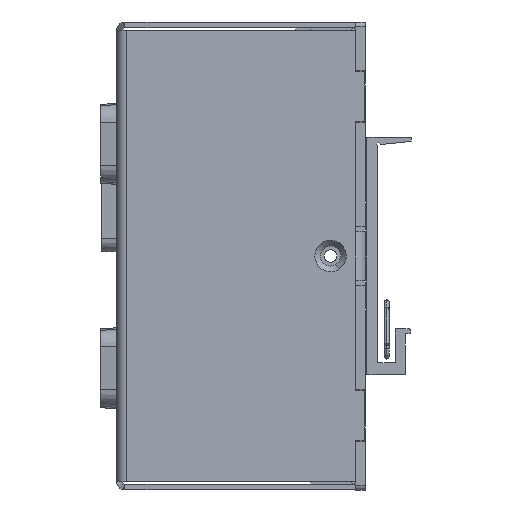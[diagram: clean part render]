
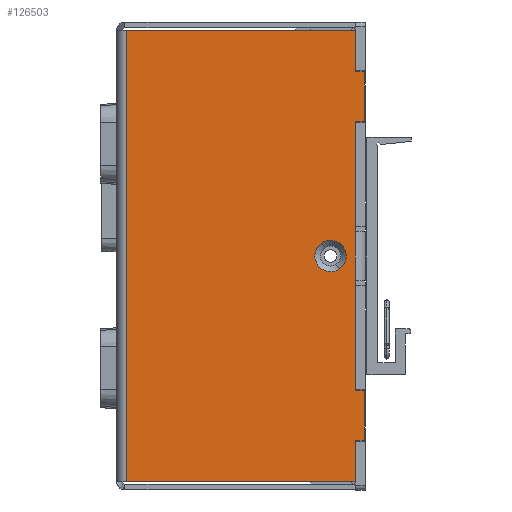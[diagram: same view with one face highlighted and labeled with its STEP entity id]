
A CAD part, left-side view. The second image highlights one B-rep face of the part: STEP entity #126503.
In plain terms, the highlighted planar face has unit normal (-1, 0, 0).
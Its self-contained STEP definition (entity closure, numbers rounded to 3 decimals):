
#3305 = ORIENTED_EDGE ( 'NONE', *, *, #38111, .T. ) ;
#3750 = DIRECTION ( 'NONE',  ( -1., 0., 0. ) ) ;
#5887 = LINE ( 'NONE', #42027, #100526 ) ;
#6234 = EDGE_CURVE ( 'NONE', #54213, #147118, #97832, .T. ) ;
#6438 = CARTESIAN_POINT ( 'NONE',  ( -85., -48., -27. ) ) ;
#7976 = CARTESIAN_POINT ( 'NONE',  ( -85., -48., -45.3 ) ) ;
#8214 = CIRCLE ( 'NONE', #49245, 3.15 ) ;
#8687 = DIRECTION ( 'NONE',  ( 0., 0., -1. ) ) ;
#10372 = DIRECTION ( 'NONE',  ( 0., -1., 0. ) ) ;
#12263 = VECTOR ( 'NONE', #8687, 1000. ) ;
#13264 = VECTOR ( 'NONE', #10372, 1000. ) ;
#13733 = LINE ( 'NONE', #74762, #78716 ) ;
#14102 = EDGE_CURVE ( 'NONE', #125130, #125954, #31273, .T. ) ;
#14897 = CARTESIAN_POINT ( 'NONE',  ( -85., -49.8, -37. ) ) ;
#19222 = CARTESIAN_POINT ( 'NONE',  ( -85., -49.8, 27. ) ) ;
#19328 = VERTEX_POINT ( 'NONE', #53477 ) ;
#19882 = ORIENTED_EDGE ( 'NONE', *, *, #89790, .F. ) ;
#20024 = LINE ( 'NONE', #7976, #24223 ) ;
#20280 = EDGE_CURVE ( 'NONE', #129483, #75952, #20024, .T. ) ;
#20550 = CARTESIAN_POINT ( 'NONE',  ( -85., -1.937, -45.3 ) ) ;
#23511 = ORIENTED_EDGE ( 'NONE', *, *, #109315, .F. ) ;
#24223 = VECTOR ( 'NONE', #56951, 1000. ) ;
#30610 = EDGE_CURVE ( 'NONE', #121168, #153296, #157320, .T. ) ;
#31273 = LINE ( 'NONE', #19222, #47104 ) ;
#32799 = EDGE_CURVE ( 'NONE', #73941, #125130, #140326, .T. ) ;
#35150 = ORIENTED_EDGE ( 'NONE', *, *, #42433, .F. ) ;
#36557 = VECTOR ( 'NONE', #68028, 1000. ) ;
#36751 = CARTESIAN_POINT ( 'NONE',  ( -85., -1.937, 45.3 ) ) ;
#37544 = DIRECTION ( 'NONE',  ( 0., 1., 0. ) ) ;
#37872 = CARTESIAN_POINT ( 'NONE',  ( -85., -41.137, 2.54 ) ) ;
#38111 = EDGE_CURVE ( 'NONE', #82933, #142844, #139779, .T. ) ;
#41790 = ORIENTED_EDGE ( 'NONE', *, *, #30610, .T. ) ;
#42027 = CARTESIAN_POINT ( 'NONE',  ( -85., -48., -45.3 ) ) ;
#42433 = EDGE_CURVE ( 'NONE', #19328, #45565, #57963, .T. ) ;
#42586 = DIRECTION ( 'NONE',  ( 0., 1., 0. ) ) ;
#42676 = CARTESIAN_POINT ( 'NONE',  ( -85., -48., 45.3 ) ) ;
#43320 = EDGE_CURVE ( 'NONE', #125954, #75952, #13733, .T. ) ;
#43961 = CARTESIAN_POINT ( 'NONE',  ( -85., -49.8, -27. ) ) ;
#45565 = VERTEX_POINT ( 'NONE', #37872 ) ;
#46053 = VECTOR ( 'NONE', #71321, 1000. ) ;
#47104 = VECTOR ( 'NONE', #68205, 1000. ) ;
#47417 = VERTEX_POINT ( 'NONE', #36751 ) ;
#47558 = EDGE_LOOP ( 'NONE', ( #48778, #108111, #156797, #78223, #41790, #75825, #3305, #23511, #82362, #58454, #125525, #103160 ) ) ;
#48778 = ORIENTED_EDGE ( 'NONE', *, *, #68882, .F. ) ;
#49245 = AXIS2_PLACEMENT_3D ( 'NONE', #101289, #76392, #88438 ) ;
#50183 = DIRECTION ( 'NONE',  ( 0., -1., 0. ) ) ;
#52501 = DIRECTION ( 'NONE',  ( 0., 0., -1. ) ) ;
#53477 = CARTESIAN_POINT ( 'NONE',  ( -85., -44.863, -2.54 ) ) ;
#53532 = CARTESIAN_POINT ( 'NONE',  ( -85., 0., 0. ) ) ;
#54213 = VERTEX_POINT ( 'NONE', #68163 ) ;
#54320 = FACE_OUTER_BOUND ( 'NONE', #47558, .T. ) ;
#56951 = DIRECTION ( 'NONE',  ( 0., 0., -1. ) ) ;
#57963 = CIRCLE ( 'NONE', #147751, 3.15 ) ;
#58454 = ORIENTED_EDGE ( 'NONE', *, *, #14102, .T. ) ;
#58616 = CARTESIAN_POINT ( 'NONE',  ( -85., -49.8, 27. ) ) ;
#62288 = AXIS2_PLACEMENT_3D ( 'NONE', #53532, #3750, #151492 ) ;
#62733 = DIRECTION ( 'NONE',  ( 0., 1., 0. ) ) ;
#68028 = DIRECTION ( 'NONE',  ( 0., -1., 0. ) ) ;
#68163 = CARTESIAN_POINT ( 'NONE',  ( -85., -48., -45.3 ) ) ;
#68205 = DIRECTION ( 'NONE',  ( 0., 0., 1. ) ) ;
#68882 = EDGE_CURVE ( 'NONE', #47417, #129483, #142838, .T. ) ;
#69383 = DIRECTION ( 'NONE',  ( 0., 0., 1. ) ) ;
#71321 = DIRECTION ( 'NONE',  ( 0., -1., 0. ) ) ;
#73941 = VERTEX_POINT ( 'NONE', #79332 ) ;
#74642 = CARTESIAN_POINT ( 'NONE',  ( -85., -49.8, 37. ) ) ;
#74762 = CARTESIAN_POINT ( 'NONE',  ( -85., -48., 37. ) ) ;
#75825 = ORIENTED_EDGE ( 'NONE', *, *, #134922, .T. ) ;
#75952 = VERTEX_POINT ( 'NONE', #85282 ) ;
#76392 = DIRECTION ( 'NONE',  ( -1., 0., 0. ) ) ;
#78223 = ORIENTED_EDGE ( 'NONE', *, *, #89646, .F. ) ;
#78716 = VECTOR ( 'NONE', #62733, 1000. ) ;
#79332 = CARTESIAN_POINT ( 'NONE',  ( -85., -48., 27. ) ) ;
#80596 = CARTESIAN_POINT ( 'NONE',  ( -85., -49.8, -27. ) ) ;
#82362 = ORIENTED_EDGE ( 'NONE', *, *, #32799, .T. ) ;
#82933 = VERTEX_POINT ( 'NONE', #43961 ) ;
#84312 = EDGE_CURVE ( 'NONE', #47417, #147118, #119503, .T. ) ;
#85282 = CARTESIAN_POINT ( 'NONE',  ( -85., -48., 37. ) ) ;
#88438 = DIRECTION ( 'NONE',  ( 0., -1., 0. ) ) ;
#88715 = CARTESIAN_POINT ( 'NONE',  ( -85., -43., 0. ) ) ;
#89646 = EDGE_CURVE ( 'NONE', #121168, #54213, #5887, .T. ) ;
#89790 = EDGE_CURVE ( 'NONE', #45565, #19328, #8214, .T. ) ;
#95363 = EDGE_LOOP ( 'NONE', ( #19882, #35150 ) ) ;
#97832 = LINE ( 'NONE', #146798, #118243 ) ;
#99483 = VECTOR ( 'NONE', #42586, 1000. ) ;
#100526 = VECTOR ( 'NONE', #52501, 1000. ) ;
#101289 = CARTESIAN_POINT ( 'NONE',  ( -85., -43., 0. ) ) ;
#103160 = ORIENTED_EDGE ( 'NONE', *, *, #20280, .F. ) ;
#104982 = CARTESIAN_POINT ( 'NONE',  ( -85., -48., 27. ) ) ;
#108111 = ORIENTED_EDGE ( 'NONE', *, *, #84312, .T. ) ;
#109315 = EDGE_CURVE ( 'NONE', #73941, #142844, #141584, .T. ) ;
#113756 = PLANE ( 'NONE',  #62288 ) ;
#115111 = CARTESIAN_POINT ( 'NONE',  ( -85., -48., -45.3 ) ) ;
#118243 = VECTOR ( 'NONE', #37544, 1000. ) ;
#118714 = CARTESIAN_POINT ( 'NONE',  ( -85., -48., -27. ) ) ;
#119503 = LINE ( 'NONE', #155649, #12263 ) ;
#120383 = CARTESIAN_POINT ( 'NONE',  ( -85., -48., -37. ) ) ;
#121168 = VERTEX_POINT ( 'NONE', #155476 ) ;
#122482 = DIRECTION ( 'NONE',  ( -1., 0., 0. ) ) ;
#125130 = VERTEX_POINT ( 'NONE', #58616 ) ;
#125525 = ORIENTED_EDGE ( 'NONE', *, *, #43320, .T. ) ;
#125954 = VERTEX_POINT ( 'NONE', #74642 ) ;
#126503 = ADVANCED_FACE ( 'NONE', ( #54320, #150694 ), #113756, .T. ) ;
#128036 = LINE ( 'NONE', #80596, #141776 ) ;
#128739 = DIRECTION ( 'NONE',  ( 0., 0., -1. ) ) ;
#129153 = VECTOR ( 'NONE', #128739, 1000. ) ;
#129483 = VERTEX_POINT ( 'NONE', #42676 ) ;
#134922 = EDGE_CURVE ( 'NONE', #153296, #82933, #128036, .T. ) ;
#139779 = LINE ( 'NONE', #6438, #99483 ) ;
#140326 = LINE ( 'NONE', #104982, #36557 ) ;
#141584 = LINE ( 'NONE', #115111, #129153 ) ;
#141776 = VECTOR ( 'NONE', #69383, 1000. ) ;
#142838 = LINE ( 'NONE', #156465, #46053 ) ;
#142844 = VERTEX_POINT ( 'NONE', #118714 ) ;
#146798 = CARTESIAN_POINT ( 'NONE',  ( -85., -1.2, -45.3 ) ) ;
#147118 = VERTEX_POINT ( 'NONE', #20550 ) ;
#147751 = AXIS2_PLACEMENT_3D ( 'NONE', #88715, #122482, #50183 ) ;
#150694 = FACE_BOUND ( 'NONE', #95363, .T. ) ;
#151492 = DIRECTION ( 'NONE',  ( 0., -1., 0. ) ) ;
#153296 = VERTEX_POINT ( 'NONE', #14897 ) ;
#155476 = CARTESIAN_POINT ( 'NONE',  ( -85., -48., -37. ) ) ;
#155649 = CARTESIAN_POINT ( 'NONE',  ( -85., -1.937, 0. ) ) ;
#156465 = CARTESIAN_POINT ( 'NONE',  ( -85., -48., 45.3 ) ) ;
#156797 = ORIENTED_EDGE ( 'NONE', *, *, #6234, .F. ) ;
#157320 = LINE ( 'NONE', #120383, #13264 ) ;
